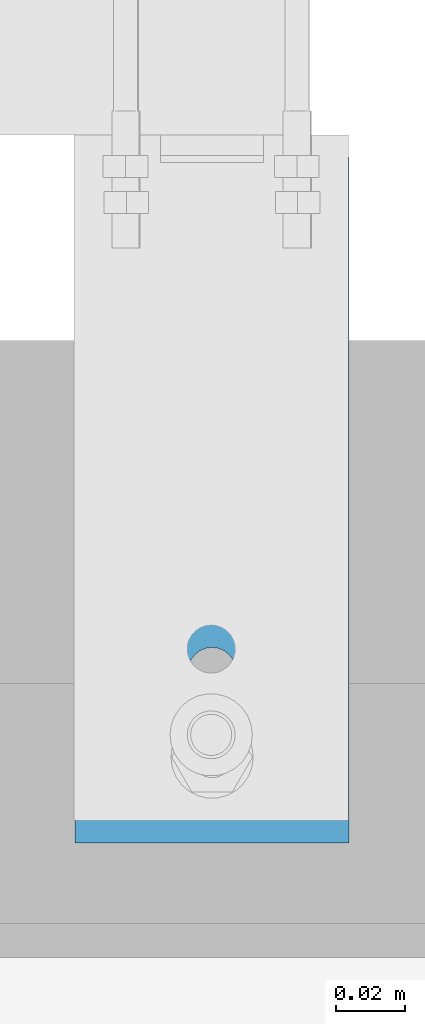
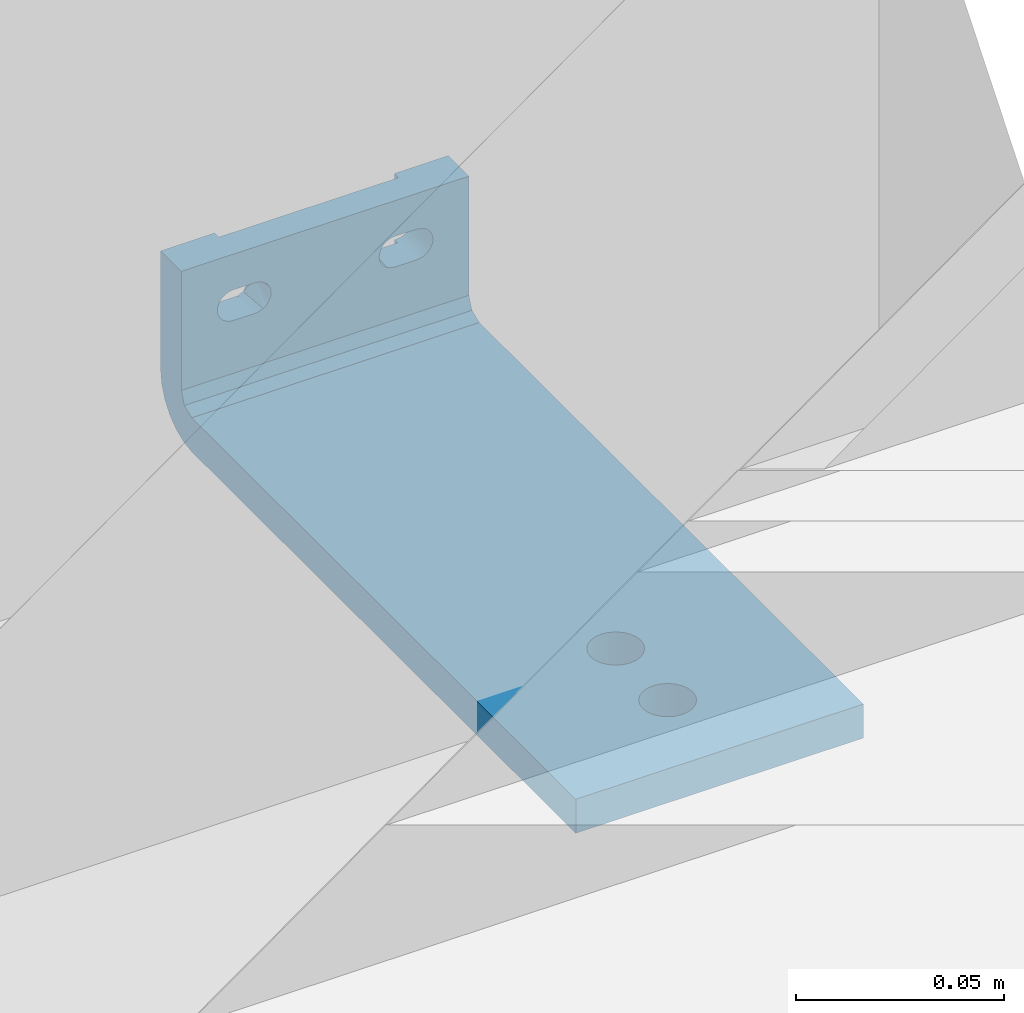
# One storey, part 9 of 13: 1 assembly.
"""IFC2X3 building model written with IfcOpenShell, lengths in metres."""

from ifc_helpers import new_model, entity, si_unit, converted_unit, derived_unit, direction, frame, origin, place, context, subcontext, project, spatial, faceted_brep, source, transform, mapped, material, type_object, type_shapes, element, save


model = new_model("IFC2X3")

# Units and contexts
model_context = context("Model", 3, precision=1e-05, world=origin(), true_north=direction((6.123031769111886e-17, 1.0)))
body_context = subcontext(model_context, "Body", "Model", "MODEL_VIEW")
ifc_project = project(units=[si_unit("LENGTHUNIT", "METRE"), si_unit("AREAUNIT", "SQUARE_METRE"), converted_unit("PLANEANGLEUNIT", "DEGREE", entity("IfcPlaneAngleMeasure", 0.017453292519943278), si_unit("PLANEANGLEUNIT", "RADIAN"), dimensions=[0, 0, 0, 0, 0, 0, 0]), si_unit("VOLUMEUNIT", "CUBIC_METRE"), derived_unit("THERMALTRANSMITTANCEUNIT", [(si_unit("MASSUNIT", "GRAM", prefix="KILO"), 1), (si_unit("THERMODYNAMICTEMPERATUREUNIT", "KELVIN"), -1), (si_unit("TIMEUNIT", "SECOND"), -3)]), derived_unit("USERDEFINED", [(si_unit("MASSUNIT", "GRAM", prefix="KILO"), 1), (si_unit("THERMODYNAMICTEMPERATUREUNIT", "KELVIN"), -1), (si_unit("TIMEUNIT", "SECOND"), -2)]), derived_unit("THERMALRESISTANCEUNIT", [(si_unit("MASSUNIT", "GRAM", prefix="KILO"), -1), (si_unit("TIMEUNIT", "SECOND"), 3), (si_unit("THERMODYNAMICTEMPERATUREUNIT", "KELVIN"), 1)]), derived_unit("MASSDENSITYUNIT", [(si_unit("MASSUNIT", "GRAM", prefix="KILO"), 1), (si_unit("LENGTHUNIT", "METRE"), -3)]), derived_unit("VAPORPERMEABILITYUNIT", [(si_unit("LENGTHUNIT", "METRE"), -1), (si_unit("TIMEUNIT", "SECOND"), 1)]), derived_unit("USERDEFINED", [(si_unit("MASSUNIT", "GRAM", prefix="KILO"), 1), (si_unit("TIMEUNIT", "SECOND"), -3), (si_unit("LENGTHUNIT", "METRE"), 3), (si_unit("ELECTRICCURRENTUNIT", "AMPERE"), -2)]), si_unit("PRESSUREUNIT", "PASCAL")], contexts=[model_context])

# Site, building, storey
site_placement = place(None, origin())
site = spatial("IfcSite", under=ifc_project, at=site_placement, Name="Default", CompositionType="ELEMENT")
building_placement = place(site_placement, origin())
building = spatial("IfcBuilding", under=site, at=building_placement, CompositionType="ELEMENT")
storey_placement = place(building_placement, origin())
storey = spatial("IfcBuildingStorey", under=building, at=storey_placement, Name="L0", CompositionType="ELEMENT", Elevation=0.0)

# Assembly
ifc_material = material(Name="REC_Acero, S 275JR (Zincado)")
type_product = type_object("IfcTypeProduct", Name="REC-PAA2005010R:PAA2005010R", material=ifc_material)
shared_shape = source(origin(), body_context, "Body", "Brep", [
    faceted_brep([(-0.02499999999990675, -0.20000000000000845, 0.027999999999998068), (-0.024999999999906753, -0.20000000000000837, 0.023999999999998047), (-0.024999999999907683, -0.1980000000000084, 0.025999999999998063), (-0.024999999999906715, -0.20000000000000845, 0.04399999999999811), (-0.024999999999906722, -0.20000000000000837, 0.0399999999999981), (-0.024999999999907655, -0.1980000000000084, 0.04199999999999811), (-0.024999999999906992, -0.19953574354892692, 0.011297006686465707), (-0.02499999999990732, -0.19885372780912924, 0.009560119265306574), (-0.024999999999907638, -0.19817171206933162, 0.007823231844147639), (-0.024999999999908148, -0.19708202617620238, 0.006308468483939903), (-0.024999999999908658, -0.19599234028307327, 0.004793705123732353), (-0.024999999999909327, -0.19456243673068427, 0.003594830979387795), (-0.024999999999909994, -0.19313253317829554, 0.0023959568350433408), (-0.024999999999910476, -0.19209194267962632, 0.004110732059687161), (-0.024999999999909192, -0.1948462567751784, 0.0039209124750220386), (-0.024999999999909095, -0.19504072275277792, 0.006742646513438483), (-0.024999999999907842, -0.1977320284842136, 0.007400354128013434), (-0.024999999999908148, -0.1970605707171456, 0.01014792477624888), (-0.024999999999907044, -0.19942908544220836, 0.011585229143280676), (-0.02499999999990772, -0.19796173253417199, 0.01400326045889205), (-0.02499999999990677, -0.20000000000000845, 0.015979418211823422), (-0.02499999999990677, -0.20000000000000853, 0.01499999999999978), (-0.024999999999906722, -0.20000000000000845, 0.03949999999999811), (-0.02499999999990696, -0.1995000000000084, 0.03949999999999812), (-0.02499999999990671, -0.20000000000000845, 0.04799999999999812), (-0.024999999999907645, -0.1980000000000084, 0.04599999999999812), (-0.024999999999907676, -0.1980000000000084, 0.02999999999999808), (-0.024999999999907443, -0.19850000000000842, 0.030499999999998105), (-0.02499999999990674, -0.20000000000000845, 0.030499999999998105), (-0.02499999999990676, -0.20000000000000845, 0.019999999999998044), (-0.024999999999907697, -0.1980000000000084, 0.01799999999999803), (-0.024999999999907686, -0.1980000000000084, 0.021999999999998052), (-0.024999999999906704, -0.20000000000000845, 0.049999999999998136), (-0.024999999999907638, -0.19800000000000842, 0.049999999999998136), (0.02775000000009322, -0.19999999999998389, 0.031102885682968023), (0.026664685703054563, -0.19999999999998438, 0.03065333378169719), (0.02550000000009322, -0.1999999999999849, 0.03049999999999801), (0.025000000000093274, -0.19999999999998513, 0.03049999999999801), (0.025000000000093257, -0.19999999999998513, 0.027999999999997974), (0.025000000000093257, -0.19999999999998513, 0.023999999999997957), (0.025000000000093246, -0.19999999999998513, 0.01999999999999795), (0.02500000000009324, -0.19999999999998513, 0.01597941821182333), (0.02500000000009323, -0.19999999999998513, 0.014999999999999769), (0.04000000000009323, -0.19999999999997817, 0.014999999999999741), (0.040000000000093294, -0.19999999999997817, 0.049999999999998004), (0.025000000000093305, -0.19999999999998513, 0.04999999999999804), (0.0250000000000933, -0.19999999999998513, 0.04799999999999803), (0.025000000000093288, -0.19999999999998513, 0.04399999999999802), (0.025000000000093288, -0.19999999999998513, 0.039999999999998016), (0.02500000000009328, -0.19999999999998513, 0.03949999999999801), (0.02550000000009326, -0.1999999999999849, 0.03949999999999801), (0.026664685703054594, -0.19999999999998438, 0.03934666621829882), (0.027750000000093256, -0.19999999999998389, 0.03889711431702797), (0.028681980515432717, -0.19999999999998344, 0.03818198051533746), (0.02939711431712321, -0.1999999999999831, 0.037249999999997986), (0.029846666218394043, -0.19999999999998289, 0.036164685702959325), (0.030000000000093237, -0.19999999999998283, 0.034999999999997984), (0.029846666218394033, -0.19999999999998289, 0.033835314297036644), (0.029397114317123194, -0.1999999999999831, 0.03274999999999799), (0.028681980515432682, -0.19999999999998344, 0.03181801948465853), (-0.03999999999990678, -0.20000000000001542, 0.014999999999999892), (-0.025499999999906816, -0.20000000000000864, 0.030499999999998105), (-0.026664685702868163, -0.2000000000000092, 0.030653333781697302), (-0.027749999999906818, -0.2000000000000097, 0.031102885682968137), (-0.02868198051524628, -0.20000000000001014, 0.03181801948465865), (-0.029397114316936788, -0.20000000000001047, 0.03274999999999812), (-0.02984666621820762, -0.20000000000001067, 0.033835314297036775), (-0.029999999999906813, -0.20000000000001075, 0.034999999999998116), (-0.029846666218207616, -0.20000000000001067, 0.03616468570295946), (-0.02939711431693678, -0.20000000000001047, 0.037249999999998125), (-0.02868198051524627, -0.20000000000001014, 0.03818198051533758), (-0.0277499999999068, -0.2000000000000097, 0.038897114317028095), (-0.026664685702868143, -0.2000000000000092, 0.03934666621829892), (-0.025499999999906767, -0.20000000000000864, 0.03949999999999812), (-0.03999999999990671, -0.20000000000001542, 0.04999999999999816), (0.02500000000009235, -0.1979999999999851, 0.04199999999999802), (0.025000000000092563, -0.19849999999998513, 0.030499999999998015), (0.02500000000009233, -0.1979999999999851, 0.029999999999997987), (0.02500000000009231, -0.1979999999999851, 0.017999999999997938), (0.025000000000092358, -0.1979999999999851, 0.04599999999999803), (0.02500000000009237, -0.1979999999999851, 0.04999999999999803), (0.02500000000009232, -0.1979999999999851, 0.02599999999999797), (0.025000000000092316, -0.1979999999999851, 0.02199999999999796), (0.025000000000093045, -0.1994999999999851, 0.03949999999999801), (0.02500000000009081, -0.1948462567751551, 0.003920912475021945), (0.02500000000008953, -0.19209194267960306, 0.0041107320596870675), (0.025000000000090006, -0.1931325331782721, 0.0023959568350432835), (0.025000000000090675, -0.194562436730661, 0.003594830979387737), (0.02500000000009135, -0.19599234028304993, 0.004793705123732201), (0.02500000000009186, -0.1970820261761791, 0.006308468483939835), (0.02500000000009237, -0.19817171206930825, 0.007823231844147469), (0.025000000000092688, -0.19885372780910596, 0.009560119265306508), (0.02500000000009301, -0.1995357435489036, 0.01129700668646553), (0.025000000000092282, -0.1979617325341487, 0.014003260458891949), (0.02500000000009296, -0.19942908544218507, 0.011585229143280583), (0.025000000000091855, -0.19706057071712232, 0.010147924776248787), (0.02500000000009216, -0.1977320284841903, 0.007400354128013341), (0.025000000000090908, -0.19504072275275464, 0.00674264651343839), (-0.006040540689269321, -0.028512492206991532, 0.0), (-0.0067373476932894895, -0.026830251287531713, 0.0), (-0.00673734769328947, -0.026830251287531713, 0.009999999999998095), (-0.006040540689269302, -0.028512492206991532, 0.009999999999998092), (-0.006975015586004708, -0.025024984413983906, 0.0), (-0.0069750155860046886, -0.025024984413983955, 0.009999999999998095), (-0.0034875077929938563, -0.031065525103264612, 0.0), (-0.004932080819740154, -0.029957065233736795, 0.0), (-0.004932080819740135, -0.029957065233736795, 0.00999999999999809), (-0.0034875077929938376, -0.031065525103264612, 0.009999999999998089), (-0.001805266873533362, -0.031762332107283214, 0.009999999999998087), (-0.0018052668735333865, -0.03176233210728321, 0.0), (0.0, -0.031999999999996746, 0.009999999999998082), (0.0, -0.031999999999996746, 0.0), (0.001805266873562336, -0.031762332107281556, 0.009999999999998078), (0.0018052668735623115, -0.03176233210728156, 0.0), (0.0034875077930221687, -0.031065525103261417, 0.009999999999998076), (0.0034875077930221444, -0.03106552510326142, 0.0), (0.006040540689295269, -0.028512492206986, 0.0), (0.004932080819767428, -0.029957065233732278, 0.0), (0.0049320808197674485, -0.029957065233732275, 0.009999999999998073), (0.006040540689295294, -0.028512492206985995, 0.009999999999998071), (0.006737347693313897, -0.026830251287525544, 0.0), (0.0067373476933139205, -0.026830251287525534, 0.00999999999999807), (0.006975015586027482, -0.02502498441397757, 0.00999999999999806), (0.006975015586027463, -0.02502498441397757, 0.0), (0.006040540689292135, -0.021537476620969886, 0.0), (0.006737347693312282, -0.023219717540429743, 0.0), (0.0067373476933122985, -0.023219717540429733, 0.00999999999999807), (0.00604054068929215, -0.021537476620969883, 0.009999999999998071), (0.003487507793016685, -0.018984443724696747, 0.0), (0.004932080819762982, -0.020092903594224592, 0.0), (0.004932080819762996, -0.02009290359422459, 0.009999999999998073), (0.0034875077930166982, -0.018984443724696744, 0.009999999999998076), (0.0018052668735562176, -0.01828763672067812, 0.009999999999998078), (0.0018052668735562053, -0.018287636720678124, 0.0), (0.0, -0.018049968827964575, 0.009999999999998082), (0.0, -0.018049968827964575, 0.0), (-0.0018052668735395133, -0.01828763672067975, 0.009999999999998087), (-0.0018052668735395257, -0.01828763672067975, 0.0), (-0.0034875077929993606, -0.018984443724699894, 0.009999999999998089), (-0.0034875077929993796, -0.018984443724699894, 0.0), (-0.006040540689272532, -0.021537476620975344, 0.0), (-0.004932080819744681, -0.020092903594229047, 0.0), (-0.00493208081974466, -0.020092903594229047, 0.00999999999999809), (-0.006040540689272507, -0.021537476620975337, 0.009999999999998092), (-0.006737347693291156, -0.02321971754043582, 0.0), (-0.006737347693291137, -0.02321971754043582, 0.009999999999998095), (-0.006040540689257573, -0.05351249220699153, 0.00999999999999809), (-0.0060405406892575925, -0.05351249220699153, 0.0), (-0.006737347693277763, -0.05183025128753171, 0.0), (-0.00673734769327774, -0.05183025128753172, 0.009999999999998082), (-0.006975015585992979, -0.05002498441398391, 0.0), (-0.00697501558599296, -0.05002498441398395, 0.009999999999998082), (-0.0018052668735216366, -0.05676233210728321, 0.00999999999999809), (-0.001805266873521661, -0.05676233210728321, 0.0), (-0.0034875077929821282, -0.05606552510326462, 0.0), (-0.0034875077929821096, -0.05606552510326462, 0.00999999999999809), (-0.004932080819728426, -0.0549570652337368, 0.0), (-0.004932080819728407, -0.0549570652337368, 0.00999999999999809), (0.0, -0.05699999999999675, 0.009999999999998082), (0.0, -0.05699999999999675, 0.0), (0.004932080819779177, -0.05495706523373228, 0.009999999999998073), (0.004932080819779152, -0.05495706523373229, 0.0), (0.0034875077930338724, -0.05606552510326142, 0.0), (0.0034875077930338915, -0.05606552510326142, 0.009999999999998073), (0.00180526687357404, -0.056762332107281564, 0.0), (0.0018052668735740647, -0.056762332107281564, 0.009999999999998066), (0.00697501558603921, -0.05002498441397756, 0.009999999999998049), (0.006975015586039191, -0.05002498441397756, 0.0), (0.006737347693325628, -0.051830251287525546, 0.0), (0.006737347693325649, -0.05183025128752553, 0.009999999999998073), (0.006040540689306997, -0.053512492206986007, 0.0), (0.0060405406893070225, -0.05351249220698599, 0.009999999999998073), (0.006040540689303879, -0.04653747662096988, 0.009999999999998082), (0.006040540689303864, -0.04653747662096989, 0.0), (0.006737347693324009, -0.04821971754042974, 0.0), (0.006737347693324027, -0.04821971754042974, 0.009999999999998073), (0.0018052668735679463, -0.043287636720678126, 0.009999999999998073), (0.0018052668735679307, -0.043287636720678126, 0.0), (0.0034875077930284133, -0.043984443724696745, 0.0), (0.003487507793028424, -0.04398444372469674, 0.009999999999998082), (0.004932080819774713, -0.0450929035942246, 0.0), (0.004932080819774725, -0.04509290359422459, 0.009999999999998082), (0.0, -0.04304996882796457, 0.00999999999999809), (0.0, -0.04304996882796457, 0.0), (-0.004932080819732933, -0.04509290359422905, 0.009999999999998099), (-0.004932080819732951, -0.04509290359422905, 0.0), (-0.003487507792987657, -0.043984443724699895, 0.0), (-0.0034875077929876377, -0.043984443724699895, 0.009999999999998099), (-0.0018052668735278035, -0.043287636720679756, 0.0), (-0.0018052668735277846, -0.043287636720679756, 0.00999999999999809), (-0.006737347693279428, -0.04821971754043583, 0.0), (-0.006737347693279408, -0.04821971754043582, 0.00999999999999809), (-0.0060405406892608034, -0.04653747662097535, 0.0), (-0.006040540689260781, -0.04653747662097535, 0.009999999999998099), (-0.03999999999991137, -0.19000000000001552, 0.04999999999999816), (-0.039999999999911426, -0.19000000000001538, 0.014999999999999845), (-0.03999999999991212, -0.1885355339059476, 0.011464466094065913), (-0.03999999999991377, -0.18500000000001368, 0.009999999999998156), (-0.03999999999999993, 0.0, 0.009999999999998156), (-0.03999999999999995, 0.0, 0.0), (-0.039999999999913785, -0.18500000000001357, 0.0), (-0.039999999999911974, -0.18888228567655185, 0.000511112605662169), (-0.039999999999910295, -0.19250000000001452, 0.002009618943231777), (-0.039999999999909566, -0.19405330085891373, 0.003201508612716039), (-0.03999999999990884, -0.19560660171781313, 0.004393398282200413), (-0.03999999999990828, -0.1967984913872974, 0.005946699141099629), (-0.03999999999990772, -0.1979903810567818, 0.007499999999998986), (-0.039999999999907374, -0.1987396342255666, 0.0093088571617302), (-0.03999999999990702, -0.19948888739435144, 0.011117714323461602), (0.04000000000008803, -0.1888822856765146, 0.0005111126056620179), (0.04000000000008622, -0.18499999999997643, 0.0), (0.04000000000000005, 0.0, 0.0), (0.04000000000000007, 0.0, 0.009999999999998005), (0.04000000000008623, -0.18499999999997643, 0.009999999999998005), (0.04000000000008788, -0.18853553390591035, 0.011464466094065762), (0.040000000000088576, -0.18999999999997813, 0.014999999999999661), (0.04000000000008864, -0.18999999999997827, 0.049999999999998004), (0.04000000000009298, -0.1994888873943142, 0.011117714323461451), (0.04000000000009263, -0.19873963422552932, 0.009308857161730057), (0.04000000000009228, -0.19799038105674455, 0.007499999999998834), (0.040000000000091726, -0.19679849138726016, 0.005946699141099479), (0.040000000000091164, -0.19560660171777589, 0.004393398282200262), (0.040000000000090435, -0.19405330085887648, 0.0032015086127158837), (0.04000000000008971, -0.19249999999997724, 0.0020096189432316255), (0.0, -0.1849999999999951, 0.009999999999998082), (-0.026664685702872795, -0.19000000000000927, 0.03934666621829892), (-0.027749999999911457, -0.19000000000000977, 0.038897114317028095), (-0.025499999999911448, -0.19000000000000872, 0.03949999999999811), (-0.028681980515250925, -0.19000000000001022, 0.03818198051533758), (-0.029397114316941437, -0.19000000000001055, 0.037249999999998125), (-0.029846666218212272, -0.19000000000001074, 0.03616468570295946), (-0.02999999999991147, -0.19000000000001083, 0.03499999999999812), (-0.019499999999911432, -0.19000000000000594, 0.03949999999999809), (-0.018335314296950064, -0.19000000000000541, 0.03934666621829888), (0.018335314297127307, -0.18999999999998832, 0.039346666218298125), (0.019500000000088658, -0.18999999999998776, 0.03949999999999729), (0.025500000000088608, -0.18999999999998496, 0.03949999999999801), (0.02666468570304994, -0.18999999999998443, 0.039346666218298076), (0.027750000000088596, -0.1899999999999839, 0.03889711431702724), (0.028681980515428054, -0.1899999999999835, 0.03818198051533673), (0.02939711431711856, -0.18999999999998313, 0.03724999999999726), (0.02984666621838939, -0.18999999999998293, 0.0361646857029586), (0.030000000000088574, -0.18999999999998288, 0.03499999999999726), (0.02984666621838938, -0.18999999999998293, 0.03383531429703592), (0.02939711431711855, -0.18999999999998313, 0.03274999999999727), (0.028681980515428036, -0.1899999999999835, 0.03181801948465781), (0.02775000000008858, -0.18999999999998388, 0.031102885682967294), (0.026664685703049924, -0.18999999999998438, 0.030653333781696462), (0.02550000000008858, -0.18999999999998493, 0.030499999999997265), (0.019500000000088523, -0.18999999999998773, 0.03049999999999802), (0.018335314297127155, -0.1899999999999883, 0.030653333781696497), (-0.000961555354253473, -0.18999999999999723, 0.014999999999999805), (-0.029846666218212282, -0.19000000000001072, 0.033835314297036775), (-0.02939711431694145, -0.19000000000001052, 0.03274999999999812), (-0.028681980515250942, -0.19000000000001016, 0.03181801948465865), (-0.027749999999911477, -0.19000000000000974, 0.031102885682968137), (-0.026664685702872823, -0.19000000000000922, 0.030653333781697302), (-0.025499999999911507, -0.1900000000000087, 0.030499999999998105), (-0.019499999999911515, -0.19000000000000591, 0.03049999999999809), (-0.018335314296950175, -0.19000000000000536, 0.03065333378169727), (-0.017249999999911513, -0.19000000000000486, 0.031102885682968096), (0.017250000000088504, -0.1899999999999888, 0.03110288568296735), (0.01725000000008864, -0.18999999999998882, 0.03889711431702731), (-0.01724999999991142, -0.1900000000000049, 0.03889711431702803), (0.016318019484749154, -0.18999999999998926, 0.03818198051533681), (-0.01631801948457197, -0.19000000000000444, 0.03818198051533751), (-0.015602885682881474, -0.1900000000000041, 0.03724999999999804), (0.015602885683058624, -0.18999999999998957, 0.03724999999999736), (-0.015153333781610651, -0.1900000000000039, 0.03616468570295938), (0.015153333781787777, -0.18999999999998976, 0.03616468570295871), (-0.014999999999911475, -0.1900000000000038, 0.03499999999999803), (0.015000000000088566, -0.18999999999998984, 0.03499999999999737), (0.015153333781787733, -0.18999999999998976, 0.03383531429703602), (-0.01515333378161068, -0.1900000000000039, 0.0338353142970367), (0.015602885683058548, -0.18999999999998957, 0.03274999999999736), (-0.015602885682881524, -0.19000000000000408, 0.03274999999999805), (0.016318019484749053, -0.18999999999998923, 0.03181801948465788), (-0.016318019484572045, -0.19000000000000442, 0.031818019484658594), (0.010113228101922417, -0.18855360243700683, 0.011482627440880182), (-0.019499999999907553, -0.19850000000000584, 0.0304999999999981), (0.019500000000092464, -0.19849999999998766, 0.030499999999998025), (-0.015112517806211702, -0.19800000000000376, 0.033999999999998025), (-0.017662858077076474, -0.19889209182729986, 0.030892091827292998), (-0.015502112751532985, -0.199065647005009, 0.03293435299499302), (-0.016145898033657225, -0.2000000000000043, 0.031999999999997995), (-0.01614589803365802, -0.19800000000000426, 0.03799999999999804), (-0.01949999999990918, -0.1947500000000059, 0.03949999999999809), (-0.014999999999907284, -0.19900000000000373, 0.03499999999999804), (-0.015502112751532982, -0.19893435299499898, 0.03706564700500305), (-0.015112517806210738, -0.2000000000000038, 0.035999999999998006), (-0.01766285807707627, -0.19910790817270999, 0.03910790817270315), (-0.019499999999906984, -0.1995000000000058, 0.03949999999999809), (0.01950000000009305, -0.19949999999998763, 0.039499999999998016), (0.019500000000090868, -0.19475000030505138, 0.03949999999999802), (0.016145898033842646, -0.19799999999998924, 0.03799999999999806), (0.01766285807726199, -0.19910790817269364, 0.03910790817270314), (0.015112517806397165, -0.19999999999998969, 0.03599999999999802), (0.01500000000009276, -0.19899999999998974, 0.03499999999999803), (0.015502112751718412, -0.19893435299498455, 0.037065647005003), (0.015112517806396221, -0.1979999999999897, 0.03399999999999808), (0.015502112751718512, -0.19906564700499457, 0.03293435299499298), (0.01766285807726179, -0.19889209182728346, 0.030892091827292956), (0.01614589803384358, -0.19999999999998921, 0.03199999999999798)], [[[0, 1, 2]], [[3, 4, 5]], [[6, 7, 8, 9, 10, 11, 12, 13, 14, 15, 16, 17, 18, 19, 20, 21]], [[4, 22, 23]], [[24, 3, 25]], [[0, 26, 27, 28]], [[29, 20, 30]], [[1, 29, 31]], [[32, 24, 33]], [[34, 35, 36, 37, 38, 39, 40, 41, 42, 43, 44, 45, 46, 47, 48, 49, 50, 51, 52, 53, 54, 55, 56, 57, 58, 59]], [[60, 21, 20, 29, 1, 0, 28, 61, 62, 63, 64, 65, 66, 67, 68, 69, 70, 71, 72, 73, 22, 4, 3, 24, 32, 74]], [[47, 75, 48]], [[76, 77, 38, 37]], [[40, 78, 41]], [[46, 79, 47]], [[45, 80, 46]], [[38, 81, 39]], [[39, 82, 40]], [[48, 83, 49]], [[84, 85, 86, 87, 88, 89, 90, 91, 92, 42, 41, 93, 94, 95, 96, 97]], [[98, 99, 100, 101]], [[100, 99, 102, 103]], [[104, 105, 106, 107]], [[106, 105, 98, 101]], [[108, 109, 104, 107]], [[109, 108, 110, 111]], [[111, 110, 112, 113]], [[113, 112, 114, 115]], [[116, 117, 118, 119]], [[118, 117, 115, 114]], [[120, 116, 119, 121]], [[120, 121, 122, 123]], [[124, 125, 126, 127]], [[126, 125, 123, 122]], [[128, 129, 130, 131]], [[130, 129, 124, 127]], [[132, 133, 128, 131]], [[133, 132, 134, 135]], [[135, 134, 136, 137]], [[137, 136, 138, 139]], [[140, 141, 142, 143]], [[142, 141, 139, 138]], [[144, 140, 143, 145]], [[144, 145, 103, 102]], [[146, 147, 148, 149]], [[149, 148, 150, 151]], [[152, 153, 154, 155]], [[155, 154, 156, 157]], [[157, 156, 147, 146]], [[152, 158, 159, 153]], [[160, 161, 162, 163]], [[163, 162, 164, 165]], [[166, 167, 168, 169]], [[169, 168, 170, 171]], [[171, 170, 161, 160]], [[159, 158, 165, 164]], [[172, 173, 174, 175]], [[175, 174, 167, 166]], [[176, 177, 178, 179]], [[179, 178, 180, 181]], [[181, 180, 173, 172]], [[176, 182, 183, 177]], [[184, 185, 186, 187]], [[187, 186, 188, 189]], [[151, 150, 190, 191]], [[191, 190, 192, 193]], [[193, 192, 185, 184]], [[183, 182, 189, 188]], [[74, 194, 195, 196, 197, 198, 199, 200, 201, 202, 203, 204, 205, 206, 207, 208, 60]], [[209, 210, 211, 212, 213, 214, 215, 216, 44, 43, 217, 218, 219, 220, 221, 222, 223]], [[197, 146, 149]], [[146, 197, 157]], [[198, 197, 149]], [[155, 157, 197]], [[152, 155, 197]], [[158, 152, 197]], [[158, 197, 224]], [[158, 224, 213]], [[165, 158, 213]], [[163, 165, 213]], [[160, 163, 213]], [[213, 171, 160]], [[171, 213, 169]], [[212, 169, 213]], [[166, 169, 212]], [[212, 175, 166]], [[212, 121, 175]], [[122, 121, 212]], [[212, 126, 122]], [[126, 212, 127]], [[130, 127, 212]], [[130, 212, 131]], [[132, 131, 212]], [[134, 132, 212]], [[134, 212, 198]], [[198, 149, 151]], [[198, 151, 191]], [[100, 198, 191]], [[100, 103, 198]], [[145, 198, 103]], [[198, 145, 143]], [[198, 143, 142]], [[142, 138, 198]], [[138, 136, 198]], [[198, 136, 134]], [[172, 175, 121]], [[119, 172, 121]], [[118, 172, 119]], [[118, 181, 172]], [[118, 114, 181]], [[114, 179, 181]], [[114, 112, 179]], [[179, 112, 176]], [[112, 110, 176]], [[110, 182, 176]], [[110, 189, 182]], [[108, 189, 110]], [[187, 189, 108]], [[187, 108, 107]], [[184, 187, 107]], [[107, 106, 184]], [[193, 184, 106]], [[106, 101, 193]], [[193, 101, 100]], [[191, 193, 100]], [[199, 198, 212, 211]], [[199, 140, 144]], [[140, 199, 141]], [[199, 144, 102]], [[102, 99, 199]], [[199, 99, 190]], [[139, 141, 199]], [[137, 139, 199]], [[199, 135, 137]], [[150, 199, 190]], [[148, 199, 150]], [[200, 199, 148]], [[135, 199, 211]], [[133, 135, 211]], [[128, 133, 211]], [[211, 129, 128]], [[129, 211, 124]], [[124, 211, 125]], [[123, 125, 211]], [[120, 123, 211]], [[211, 174, 120]], [[167, 174, 211]], [[211, 168, 167]], [[210, 168, 211]], [[200, 159, 210]], [[170, 168, 210]], [[170, 210, 161]], [[162, 161, 210]], [[164, 162, 210]], [[164, 210, 159]], [[153, 159, 200]], [[174, 173, 120]], [[173, 116, 120]], [[116, 173, 117]], [[117, 173, 180]], [[115, 117, 180]], [[178, 115, 180]], [[113, 115, 178]], [[113, 178, 177]], [[113, 177, 111]], [[177, 183, 111]], [[183, 188, 111]], [[109, 111, 188]], [[188, 186, 109]], [[104, 109, 186]], [[186, 185, 104]], [[185, 105, 104]], [[192, 105, 185]], [[98, 192, 99]], [[98, 105, 192]], [[192, 190, 99]], [[200, 148, 147]], [[200, 147, 156]], [[156, 154, 200]], [[154, 153, 200]], [[209, 201, 200, 210]], [[86, 209, 223]], [[222, 87, 86]], [[87, 221, 88]], [[219, 90, 89]], [[208, 7, 6]], [[201, 209, 86, 12]], [[201, 12, 202]], [[217, 91, 218]], [[204, 203, 11]], [[206, 9, 8]], [[204, 10, 205]], [[12, 203, 202]], [[204, 11, 10]], [[207, 8, 7]], [[92, 91, 217]], [[218, 91, 90]], [[86, 223, 222]], [[92, 43, 42]], [[6, 21, 60]], [[43, 92, 217]], [[203, 12, 11]], [[219, 89, 220]], [[88, 221, 220]], [[206, 8, 207]], [[9, 206, 205]], [[7, 208, 207]], [[90, 219, 218]], [[205, 10, 9]], [[6, 60, 208]], [[221, 87, 222]], [[88, 220, 89]], [[74, 32, 33, 80, 45, 44, 216, 194]], [[194, 225, 226]], [[225, 194, 227]], [[194, 226, 228]], [[228, 229, 194]], [[230, 194, 229]], [[230, 231, 194]], [[194, 231, 195]], [[232, 227, 194]], [[233, 232, 194]], [[233, 194, 234]], [[194, 216, 234]], [[235, 234, 216]], [[236, 235, 216]], [[216, 237, 236]], [[237, 216, 238]], [[238, 216, 239]], [[240, 239, 216]], [[240, 216, 241]], [[242, 241, 216]], [[216, 215, 242]], [[243, 242, 215]], [[244, 243, 215]], [[245, 244, 215]], [[215, 246, 245]], [[246, 215, 247]], [[248, 247, 215]], [[248, 215, 249]], [[250, 249, 215]], [[250, 215, 251]], [[250, 251, 195]], [[252, 195, 231]], [[252, 253, 195]], [[253, 254, 195]], [[255, 195, 254]], [[195, 255, 256]], [[256, 257, 195]], [[195, 257, 258]], [[258, 259, 195]], [[195, 259, 250]], [[250, 259, 260]], [[250, 260, 261]], [[262, 233, 234]], [[263, 233, 262]], [[262, 264, 263]], [[265, 263, 264]], [[265, 264, 266]], [[267, 266, 264]], [[268, 266, 267]], [[267, 269, 268]], [[268, 269, 270]], [[269, 271, 270]], [[271, 272, 270]], [[273, 270, 272]], [[272, 274, 273]], [[275, 273, 274]], [[274, 276, 275]], [[275, 276, 277]], [[276, 261, 277]], [[260, 277, 261]], [[278, 214, 213]], [[196, 224, 197]], [[196, 278, 224]], [[196, 195, 251]], [[251, 215, 278]], [[224, 278, 213]], [[251, 278, 196]], [[214, 278, 215]], [[61, 28, 27, 279, 258, 257]], [[37, 36, 248, 249, 280, 76]], [[258, 279, 259]], [[259, 279, 260]], [[275, 277, 281]], [[281, 277, 260]], [[273, 275, 281]], [[282, 260, 279]], [[283, 282, 284]], [[285, 286, 266]], [[282, 283, 281]], [[281, 287, 288]], [[282, 281, 260]], [[270, 273, 281]], [[268, 281, 285]], [[268, 285, 266]], [[286, 263, 265]], [[266, 286, 265]], [[286, 233, 263]], [[289, 288, 287]], [[288, 285, 281]], [[285, 290, 286]], [[291, 286, 290]], [[232, 233, 286]], [[281, 268, 270]], [[22, 73, 227, 232, 286, 291, 23]], [[50, 49, 83, 292, 293, 235, 236]], [[226, 225, 72, 71]], [[225, 227, 73, 72]], [[229, 228, 70, 69]], [[70, 228, 226, 71]], [[229, 69, 68, 230]], [[230, 68, 67, 231]], [[231, 67, 66, 252]], [[252, 66, 65, 253]], [[254, 64, 63, 255]], [[253, 65, 64, 254]], [[255, 63, 62, 256]], [[256, 62, 61, 257]], [[294, 293, 295]], [[262, 293, 264]], [[234, 293, 262]], [[294, 269, 267]], [[293, 294, 267]], [[264, 293, 267]], [[292, 295, 293]], [[234, 235, 293]], [[296, 297, 298]], [[298, 297, 299]], [[294, 298, 299]], [[299, 269, 294]], [[299, 276, 274]], [[299, 274, 272]], [[280, 249, 250]], [[280, 250, 261]], [[299, 261, 276]], [[300, 301, 299]], [[272, 271, 299]], [[269, 299, 271]], [[300, 302, 301]], [[261, 299, 301]], [[261, 301, 280]], [[34, 246, 247, 35]], [[35, 247, 248, 36]], [[57, 243, 244, 58]], [[58, 244, 245, 59]], [[59, 245, 246, 34]], [[243, 57, 56, 242]], [[241, 55, 54, 240]], [[240, 54, 53, 239]], [[237, 238, 52, 51]], [[52, 238, 239, 53]], [[236, 237, 51, 50]], [[242, 56, 55, 241]], [[86, 85, 13, 12]], [[46, 80, 33, 24]], [[79, 46, 24, 25]], [[79, 25, 3, 47]], [[75, 47, 3, 5]], [[75, 5, 4, 48]], [[291, 290, 285, 294, 295, 292, 83, 48, 4, 23]], [[294, 285, 288, 289, 296, 298]], [[296, 289, 287, 281, 299, 297]], [[300, 299, 281, 283, 284, 302]], [[301, 302, 284, 282, 279, 27, 26, 77, 76, 280]], [[77, 26, 0, 38]], [[81, 38, 0, 2]], [[81, 2, 1, 39]], [[39, 1, 31, 82]], [[82, 31, 29, 40]], [[40, 29, 30, 78]], [[41, 78, 30, 20]], [[93, 41, 20, 19]], [[94, 93, 19, 18]], [[95, 94, 18, 17]], [[95, 17, 16, 96]], [[96, 16, 15, 97]], [[97, 15, 14, 84]], [[84, 14, 13, 85]]]),
])
type_shapes(type_product, [shared_shape])
assembly_placement = place(storey_placement, frame((7.816482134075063, 15.788030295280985, 0.0), z_axis=(0.0, 0.0, 1.0), x_axis=(-1.0, 0.0, 0.0)))
element("IfcElementAssembly", 1, at=assembly_placement, inside=storey, type_object=type_product, material=ifc_material, Name="REC-PAA2005010R:PAA2005010R", ObjectType="REC-PAA2005010R:PAA2005010R", AssemblyPlace="NOTDEFINED", PredefinedType="NOTDEFINED", context=body_context, shape_type="MappedRepresentation", body=[
    mapped(shared_shape, transform((0.0, 0.0, 0.0), scale=1.0)),
])

save(model, "model.ifc")
